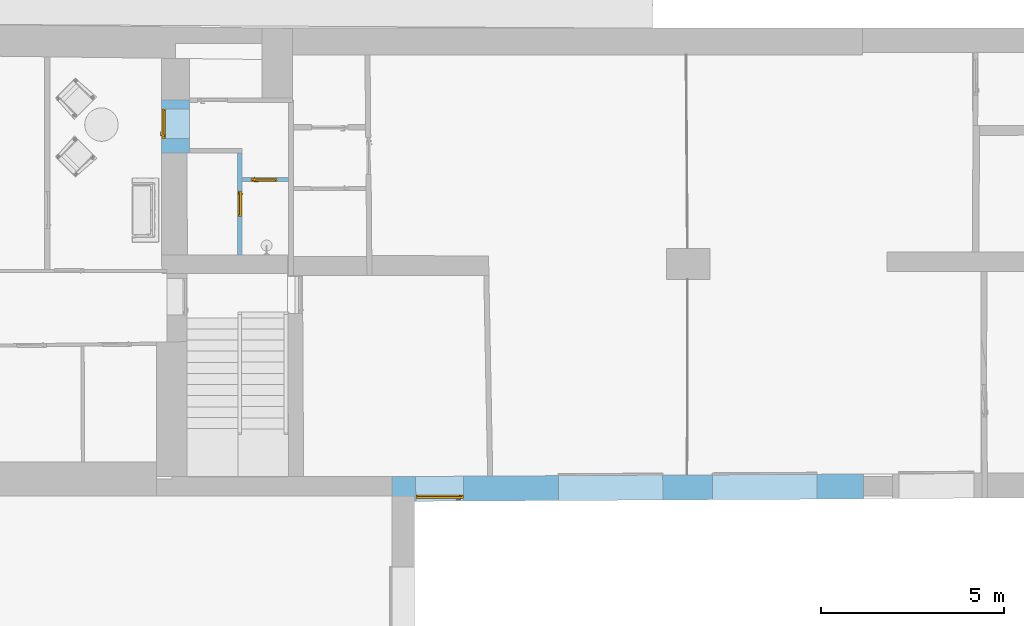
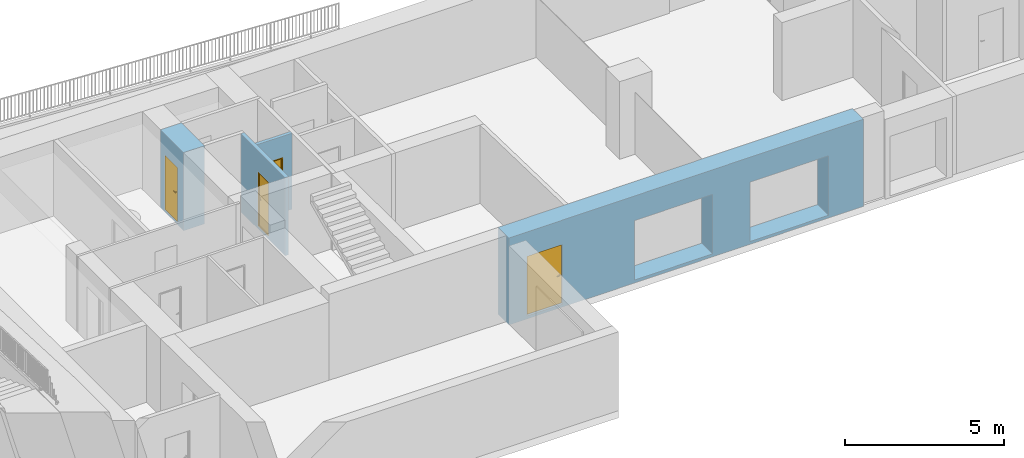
# One storey, part 8 of 17: 4 doors, 7 openings, plus 4 elements that do not belong to this part.
"""IFC2X3 building model written with IfcOpenShell, lengths in millimetres."""

from ifc_helpers import new_model, entity, si_unit, converted_unit, derived_unit, direction, frame, frame_2d, origin, place, context, subcontext, project, spatial, polyline, rectangle, outline, extrude, clip, bounded_halfspace, faceted_brep, source, transform, mapped, material, material_list, layer, layer_set, layer_usage, type_object, type_shapes, element, fill, save


model = new_model("IFC2X3")

# Units and contexts
model_context = context("Model", 3, precision=0.01, world=origin(), true_north=direction((6.12303176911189e-17, 1.0)))
context_of_model = context(None, 3, precision=0.01, world=origin(), true_north=direction((6.12303176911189e-17, 1.0)))
body_context = subcontext(model_context, "Body", "Model", "MODEL_VIEW")
ifc_project = project(units=[si_unit("LENGTHUNIT", "METRE", prefix="MILLI"), si_unit("AREAUNIT", "SQUARE_METRE"), si_unit("VOLUMEUNIT", "CUBIC_METRE"), converted_unit("PLANEANGLEUNIT", "DEGREE", entity("IfcRatioMeasure", 0.0174532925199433), si_unit("PLANEANGLEUNIT", "RADIAN"), dimensions=[0, 0, 0, 0, 0, 0, 0]), si_unit("MASSUNIT", "GRAM", prefix="KILO"), derived_unit("MASSDENSITYUNIT", [(si_unit("MASSUNIT", "GRAM", prefix="KILO"), 1), (si_unit("LENGTHUNIT", "METRE"), -3)]), si_unit("TIMEUNIT", "SECOND"), si_unit("FREQUENCYUNIT", "HERTZ"), si_unit("THERMODYNAMICTEMPERATUREUNIT", "DEGREE_CELSIUS"), derived_unit("THERMALTRANSMITTANCEUNIT", [(si_unit("MASSUNIT", "GRAM", prefix="KILO"), 1), (si_unit("THERMODYNAMICTEMPERATUREUNIT", "KELVIN"), -1), (si_unit("TIMEUNIT", "SECOND"), -3)]), derived_unit("VOLUMETRICFLOWRATEUNIT", [(si_unit("LENGTHUNIT", "METRE"), 3), (si_unit("TIMEUNIT", "SECOND"), -1)]), si_unit("ELECTRICCURRENTUNIT", "AMPERE"), si_unit("ELECTRICVOLTAGEUNIT", "VOLT"), si_unit("POWERUNIT", "WATT"), si_unit("FORCEUNIT", "NEWTON", prefix="KILO"), si_unit("ILLUMINANCEUNIT", "LUX"), si_unit("LUMINOUSFLUXUNIT", "LUMEN"), si_unit("LUMINOUSINTENSITYUNIT", "CANDELA"), derived_unit("USERDEFINED", [(si_unit("MASSUNIT", "GRAM", prefix="KILO"), -1), (si_unit("LENGTHUNIT", "METRE"), -2), (si_unit("TIMEUNIT", "SECOND"), 3), (si_unit("LUMINOUSFLUXUNIT", "LUMEN"), 1)]), derived_unit("LINEARVELOCITYUNIT", [(si_unit("LENGTHUNIT", "METRE"), 1), (si_unit("TIMEUNIT", "SECOND"), -1)]), si_unit("PRESSUREUNIT", "PASCAL"), derived_unit("USERDEFINED", [(si_unit("LENGTHUNIT", "METRE"), -2), (si_unit("MASSUNIT", "GRAM", prefix="KILO"), 1), (si_unit("TIMEUNIT", "SECOND"), -2)])], contexts=[model_context, context_of_model])

# Site, building, storey
site_placement = place(None, frame((121442.264707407, 135347.995453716, -1800.0)))
site = spatial("IfcSite", under=ifc_project, at=site_placement, Name="Surface", CompositionType="ELEMENT")
building_placement = place(site_placement, origin())
building = spatial("IfcBuilding", under=site, at=building_placement, CompositionType="ELEMENT")
storey_placement = place(building_placement, frame((0.0, 0.0, -1490.0)))
storey = spatial("IfcBuildingStorey", under=building, at=storey_placement, Name="Kelder", CompositionType="ELEMENT", Elevation=-1489.99999999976)

# Wall, openings, door
ifc_material_1 = material(Name="__Betoonelement")
ifc_layer_1 = layer(ifc_material_1, 760.0)
ifc_layer_set_1 = layer_set([ifc_layer_1], Name="Basic Wall:76_Betoon 5")
ifc_layer_usage_1 = layer_usage(ifc_layer_set_1, "AXIS2", "POSITIVE", -380.0)
wall_type_1 = type_object("IfcWallType", Name="Basic Wall:76_Betoon 5", PredefinedType="STANDARD", material=ifc_layer_set_1)
wall_1_placement = place(storey_placement, frame((-109616.310640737, -116807.778632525, 0.0), z_axis=(0.0, 0.0, 1.0), x_axis=(0.0, -1.0, 0.0)))
wall_1 = element("IfcWallStandardCase", 1, at=wall_1_placement, inside=storey, type_object=wall_type_1, material=ifc_layer_usage_1, Name="Basic Wall:76_Betoon 5", ObjectType="Basic Wall:76_Betoon 5", context=body_context, shape_type="Clipping", body=[
    clip(extrude(rectangle(XDim=1443.98374067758, YDim=760.0, at=frame_2d((721.99187033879, 0.0), x_axis=(-1.0, 0.0))), origin(), (0.0, 0.0, 1.0), 2997.0), bounded_halfspace(frame((60.0, -380.0, 2997.0), z_axis=(0.0, 0.0, -1.0), x_axis=(1.0, 0.0, 0.0)), True, frame((60.0, -380.0, 2997.0)), polyline([(0.0, 0.0), (1383.98374067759, 0.0), (1383.98374067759, 760.0), (1253.98374067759, 760.0), (0.0, 760.0), (0.0, 0.0)]))),
])
opening_1_placement = place(wall_1_placement, origin())
element("IfcOpeningElement", 2, at=opening_1_placement, cuts=wall_1, Name="Basic Wall:76_Betoon 5", ObjectType="Opening", context=body_context, shape_type="SweptSolid", body=[
    extrude(rectangle(XDim=2099.99999999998, YDim=120.000000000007, at=frame_2d((0.0, 0.0), x_axis=(0.0, 1.0))), frame((0.0, 610.0, 1140.0), z_axis=(0.0, 1.0, 0.0), x_axis=(-1.0, 0.0, 0.0)), (0.0, 0.0, 1.0), 810.000000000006),
])
opening_2_placement = place(wall_1_placement, frame((1048.9837406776, 380.0, 90.0)))
opening_2 = element("IfcOpeningElement", 3, at=opening_2_placement, cuts=wall_1, Name="sma_D01:810 x 2110_SU-01 Siseuks:1", ObjectType="Opening", context=body_context, shape_type="SweptSolid", body=[
    extrude(rectangle(XDim=2099.99999999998, YDim=810.0, at=frame_2d((1049.99999999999, 405.0), x_axis=(1.0, 0.0))), frame((0.0, 0.0, 0.0), z_axis=(0.0, -1.0, 0.0), x_axis=(0.0, 0.0, 1.0)), (0.0, 0.0, 1.0), 760.0),
])
ifc_material_2 = material(Name="Metal - Aluminium")
ifc_material_3 = material(Name="Door - Panel_valge")
ifc_material_list_1 = material_list([ifc_material_2, ifc_material_3])
ifc_material_list_2 = material_list([ifc_material_2, ifc_material_3])
door_style_1 = type_object("IfcDoorStyle", Name="810 x 2110_SU-01 Siseuks", ConstructionType="NOTDEFINED", OperationType="SINGLE_SWING_RIGHT", ParameterTakesPrecedence=False, Sizeable=False, material=ifc_material_list_2)
shared_shape_1 = source(origin(), body_context, "Body", "Brep", [
    faceted_brep([(100.0, 650.0, 1112.5), (100.0, 688.0, 1112.5), (75.0, 688.0, 1112.5), (75.0, 645.0, 1112.5), (195.0, 645.0, 1112.5), (195.0, 650.0, 1112.5), (100.0, 650.0, 1087.5), (195.0, 650.0, 1087.5), (195.0, 645.0, 1087.5), (75.0, 645.0, 1087.5), (75.0, 688.0, 1087.5), (100.0, 688.0, 1087.5)], [[[0, 1, 2, 3, 4, 5]], [[6, 7, 8, 9, 10, 11]], [[1, 0, 6, 11]], [[2, 1, 11, 10]], [[3, 2, 10, 9]], [[4, 3, 9, 8]], [[5, 4, 8, 7]], [[0, 5, 7, 6]]]),
    faceted_brep([(112.499999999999, 688.0, 1137.5), (112.499999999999, 690.0, 1137.5), (62.4999999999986, 690.0, 1137.5), (62.4999999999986, 688.0, 1137.5), (112.499999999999, 688.0, 1017.5), (62.4999999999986, 688.0, 1017.5), (62.4999999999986, 690.0, 1017.5), (112.499999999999, 690.0, 1017.5)], [[[0, 1, 2, 3]], [[4, 5, 6, 7]], [[1, 0, 4, 7]], [[2, 1, 7, 6]], [[3, 2, 6, 5]], [[0, 3, 5, 4]]]),
    faceted_brep([(100.0, 780.0, 1112.5), (195.0, 780.0, 1112.5), (195.0, 785.0, 1112.5), (75.0, 785.0, 1112.5), (75.0, 742.0, 1112.5), (100.0, 742.0, 1112.5), (100.0, 780.0, 1087.5), (100.0, 742.0, 1087.5), (75.0, 742.0, 1087.5), (75.0, 785.0, 1087.5), (195.0, 785.0, 1087.5), (195.0, 780.0, 1087.5)], [[[0, 1, 2, 3, 4, 5]], [[6, 7, 8, 9, 10, 11]], [[5, 7, 6, 0]], [[4, 8, 7, 5]], [[3, 9, 8, 4]], [[2, 10, 9, 3]], [[1, 11, 10, 2]], [[0, 6, 11, 1]]]),
    faceted_brep([(112.499999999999, 742.0, 1137.5), (62.4999999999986, 742.0, 1137.5), (62.4999999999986, 740.0, 1137.5), (112.499999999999, 740.0, 1137.5), (112.499999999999, 742.0, 1017.5), (112.499999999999, 740.0, 1017.5), (62.4999999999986, 740.0, 1017.5), (62.4999999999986, 742.0, 1017.5)], [[[0, 1, 2, 3]], [[4, 5, 6, 7]], [[3, 5, 4, 0]], [[2, 6, 5, 3]], [[1, 7, 6, 2]], [[0, 4, 7, 1]]]),
    faceted_brep([(810.0, 650.0, 0.0), (770.0, 650.0, 0.0), (770.0, 690.0, 0.0), (785.0, 690.0, 0.0), (785.0, 740.0, 0.0), (810.0, 740.0, 0.0), (810.0, 650.0, 2100.0), (0.0, 650.0, 2100.0), (0.0, 650.0, 0.0), (40.0, 650.0, 0.0), (40.0, 650.0, 2060.0), (770.0, 650.0, 2060.0), (770.0, 690.0, 2060.0), (40.0, 690.0, 2060.0), (40.0, 690.0, 0.0), (25.0, 690.0, 0.0), (25.0, 690.0, 2075.0), (785.0, 690.0, 2075.0), (785.0, 740.0, 2075.0), (25.0, 740.0, 2075.0), (25.0, 740.0, 0.0), (0.0, 740.0, 0.0), (0.0, 740.0, 2100.0), (810.0, 740.0, 2100.0)], [[[0, 1, 2, 3, 4, 5]], [[1, 0, 6, 7, 8, 9, 10, 11]], [[2, 1, 11, 12]], [[3, 2, 12, 13, 14, 15, 16, 17]], [[4, 3, 17, 18]], [[5, 4, 18, 19, 20, 21, 22, 23]], [[0, 5, 23, 6]], [[7, 22, 21, 8]], [[8, 21, 20, 15, 14, 9]], [[13, 10, 9, 14]], [[19, 16, 15, 20]], [[12, 11, 10, 13]], [[18, 17, 16, 19]], [[6, 23, 22, 7]]]),
    faceted_brep([(25.0, 690.0, 2075.0), (25.0, 690.0, 20.0), (785.0, 690.0, 20.0), (785.0, 690.0, 2075.0), (25.0, 740.0, 2075.0), (785.0, 740.0, 2075.0), (785.0, 740.0, 20.0), (25.0, 740.0, 20.0)], [[[0, 1, 2, 3]], [[4, 5, 6, 7]], [[1, 0, 4, 7]], [[2, 1, 7, 6]], [[3, 2, 6, 5]], [[0, 3, 5, 4]]]),
    faceted_brep([(770.0, 650.0, 30.0), (770.0, 650.0, 0.0), (770.0, 690.0, 0.0), (770.0, 690.0, 20.0), (770.0, 690.0, 30.0), (40.0, 650.0, 30.0), (40.0, 690.0, 30.0), (40.0, 690.0, 20.0), (40.0, 690.0, 0.0), (40.0, 650.0, 0.0), (25.0, 690.0, 0.0), (25.0, 740.0, 0.0), (785.0, 740.0, 0.0), (785.0, 690.0, 0.0), (785.0, 740.0, 20.0), (785.0, 690.0, 20.0), (25.0, 740.0, 20.0), (25.0, 690.0, 20.0)], [[[0, 1, 2, 3, 4]], [[5, 6, 7, 8, 9]], [[1, 0, 5, 9]], [[2, 1, 9, 8, 10, 11, 12, 13]], [[6, 4, 3, 7]], [[0, 4, 6, 5]], [[14, 15, 13, 12]], [[16, 11, 10, 17]], [[15, 14, 16, 17, 7, 3]], [[13, 15, 3, 2]], [[14, 12, 11, 16]], [[17, 10, 8, 7]]]),
])
type_shapes(door_style_1, [shared_shape_1])
door_1_placement = place(opening_2_placement, frame((0.0, 0.0, 0.0), z_axis=(0.0, 0.0, 1.0), x_axis=(-1.0, 0.0, 0.0)))
door_1 = element("IfcDoor", 4, at=door_1_placement, inside=storey, type_object=door_style_1, material=ifc_material_list_1, Name="sma_D01:810 x 2110_SU-01 Siseuks", ObjectType="810 x 2110_SU-01 Siseuks", OverallHeight=2099.99999999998, OverallWidth=810.000000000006, context=body_context, shape_type="MappedRepresentation", body=[
    mapped(shared_shape_1, transform((0.0, 0.0, 0.0), scale=1.0)),
])
fill(opening_2, door_1)

# Wall, opening, door
ifc_layer_2 = layer(ifc_material_1, 110.0)
ifc_layer_set_2 = layer_set([ifc_layer_2], Name="Basic Wall:11_Betoon 2")
ifc_layer_usage_2 = layer_usage(ifc_layer_set_2, "AXIS2", "NEGATIVE", 55.0)
wall_type_2 = type_object("IfcWallType", Name="Basic Wall:11_Betoon 2", PredefinedType="STANDARD", material=ifc_layer_set_2)
wall_2_placement = place(storey_placement, frame((-106526.566491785, -118978.210874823, 87.0), z_axis=(0.0, 0.0, 1.0), x_axis=(-1.0, 0.0, 0.0)))
wall_2 = element("IfcWallStandardCase", 5, at=wall_2_placement, inside=storey, type_object=wall_type_2, material=ifc_layer_usage_2, Name="Basic Wall:11_Betoon 2", ObjectType="Basic Wall:11_Betoon 2", context=body_context, shape_type="Clipping", body=[
    clip(extrude(rectangle(XDim=1265.96896872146, YDim=110.00000000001, at=frame_2d((632.984484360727, 0.0), x_axis=(-1.0, 0.0))), origin(), (0.0, 0.0, 1.0), 2910.0), bounded_halfspace(frame((0.0, -55.0, 2910.0), z_axis=(0.0, 0.0, -1.0), x_axis=(0.0, 1.0, 0.0)), True, frame((0.0, -55.0, 2910.0)), polyline([(0.0, 0.0), (1265.96896872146, 0.0), (1265.96896872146, 110.0), (0.0, 110.0), (0.0, 0.0)]))),
])
opening_3_placement = place(wall_2_placement, frame((1019.0478312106, 55.0, 3.0)))
opening_3 = element("IfcOpeningElement", 6, at=opening_3_placement, cuts=wall_2, Name="sma_D01:700 x 2100mm PVC siseuks:1", ObjectType="Opening", context=body_context, shape_type="SweptSolid", body=[
    extrude(rectangle(XDim=2099.99999999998, YDim=700.0, at=frame_2d((1049.99999999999, 350.0), x_axis=(1.0, 0.0))), frame((0.0, 0.0, 0.0), z_axis=(0.0, -1.0, 0.0), x_axis=(0.0, 0.0, 1.0)), (0.0, 0.0, 1.0), 110.0),
])
ifc_material_4 = material(Name="PVC")
ifc_material_list_3 = material_list([ifc_material_2, ifc_material_4])
ifc_material_list_4 = material_list([ifc_material_2, ifc_material_4])
door_style_2 = type_object("IfcDoorStyle", Name="700 x 2100mm PVC siseuks", ConstructionType="USERDEFINED", OperationType="SINGLE_SWING_RIGHT", ParameterTakesPrecedence=False, Sizeable=False, material=ifc_material_list_4)
shared_shape_2 = source(origin(), body_context, "Body", "Brep", [
    faceted_brep([(100.0, 0.0, 1112.5), (100.0, 38.0, 1112.5), (75.0, 38.0, 1112.5), (75.0, -5.0, 1112.5), (195.0, -5.0, 1112.5), (195.0, 0.0, 1112.5), (100.0, 0.0, 1087.5), (195.0, 0.0, 1087.5), (195.0, -5.0, 1087.5), (75.0, -5.0, 1087.5), (75.0, 38.0, 1087.5), (100.0, 38.0, 1087.5)], [[[0, 1, 2, 3, 4, 5]], [[6, 7, 8, 9, 10, 11]], [[1, 0, 6, 11]], [[2, 1, 11, 10]], [[3, 2, 10, 9]], [[4, 3, 9, 8]], [[5, 4, 8, 7]], [[0, 5, 7, 6]]]),
    faceted_brep([(112.5, 38.0, 1137.5), (112.5, 40.0, 1137.5), (62.4999999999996, 40.0, 1137.5), (62.4999999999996, 38.0, 1137.5), (112.5, 38.0, 1017.5), (62.4999999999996, 38.0, 1017.5), (62.4999999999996, 40.0, 1017.5), (112.5, 40.0, 1017.5)], [[[0, 1, 2, 3]], [[4, 5, 6, 7]], [[1, 0, 4, 7]], [[2, 1, 7, 6]], [[3, 2, 6, 5]], [[0, 3, 5, 4]]]),
    faceted_brep([(100.0, 130.0, 1112.5), (195.0, 130.0, 1112.5), (195.0, 135.0, 1112.5), (75.0, 135.0, 1112.5), (75.0, 92.0, 1112.5), (100.0, 92.0, 1112.5), (100.0, 130.0, 1087.5), (100.0, 92.0, 1087.5), (75.0, 92.0, 1087.5), (75.0, 135.0, 1087.5), (195.0, 135.0, 1087.5), (195.0, 130.0, 1087.5)], [[[0, 1, 2, 3, 4, 5]], [[6, 7, 8, 9, 10, 11]], [[5, 7, 6, 0]], [[4, 8, 7, 5]], [[3, 9, 8, 4]], [[2, 10, 9, 3]], [[1, 11, 10, 2]], [[0, 6, 11, 1]]]),
    faceted_brep([(112.5, 92.0, 1137.5), (62.4999999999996, 92.0, 1137.5), (62.4999999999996, 90.0, 1137.5), (112.5, 90.0, 1137.5), (112.5, 92.0, 1017.5), (112.5, 90.0, 1017.5), (62.4999999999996, 90.0, 1017.5), (62.4999999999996, 92.0, 1017.5)], [[[0, 1, 2, 3]], [[4, 5, 6, 7]], [[3, 5, 4, 0]], [[2, 6, 5, 3]], [[1, 7, 6, 2]], [[0, 4, 7, 1]]]),
    faceted_brep([(700.0, 0.0, 0.0), (660.0, 0.0, 0.0), (660.0, 40.0, 0.0), (675.0, 40.0, 0.0), (675.0, 90.0, 0.0), (700.0, 90.0, 0.0), (700.0, 0.0, 2100.0), (0.0, 0.0, 2100.0), (0.0, 0.0, 0.0), (40.0, 0.0, 0.0), (40.0, 0.0, 2060.0), (660.0, 0.0, 2060.0), (660.0, 40.0, 2060.0), (40.0, 40.0, 2060.0), (40.0, 40.0, 0.0), (25.0, 40.0, 0.0), (25.0, 40.0, 2075.0), (675.0, 40.0, 2075.0), (675.0, 90.0, 2075.0), (25.0, 90.0, 2075.0), (25.0, 90.0, 0.0), (0.0, 90.0, 0.0), (0.0, 90.0, 2100.0), (700.0, 90.0, 2100.0)], [[[0, 1, 2, 3, 4, 5]], [[1, 0, 6, 7, 8, 9, 10, 11]], [[2, 1, 11, 12]], [[3, 2, 12, 13, 14, 15, 16, 17]], [[4, 3, 17, 18]], [[5, 4, 18, 19, 20, 21, 22, 23]], [[0, 5, 23, 6]], [[7, 22, 21, 8]], [[8, 21, 20, 15, 14, 9]], [[13, 10, 9, 14]], [[19, 16, 15, 20]], [[12, 11, 10, 13]], [[18, 17, 16, 19]], [[6, 23, 22, 7]]]),
    faceted_brep([(25.0, 40.0, 2075.0), (25.0, 40.0, 20.0), (675.0, 40.0, 20.0), (675.0, 40.0, 2075.0), (25.0, 90.0, 2075.0), (675.0, 90.0, 2075.0), (675.0, 90.0, 20.0), (25.0, 90.0, 20.0)], [[[0, 1, 2, 3]], [[4, 5, 6, 7]], [[1, 0, 4, 7]], [[2, 1, 7, 6]], [[3, 2, 6, 5]], [[0, 3, 5, 4]]]),
    faceted_brep([(660.0, 0.0, 30.0), (660.0, 0.0, 0.0), (660.0, 40.0, 0.0), (660.0, 40.0, 20.0), (660.0, 40.0, 30.0), (40.0, 0.0, 30.0), (40.0, 40.0, 30.0), (40.0, 40.0, 20.0), (40.0, 40.0, 0.0), (40.0, 0.0, 0.0), (25.0, 40.0, 0.0), (25.0, 90.0, 0.0), (675.0, 90.0, 0.0), (675.0, 40.0, 0.0), (675.0, 90.0, 20.0), (675.0, 40.0, 20.0), (25.0, 90.0, 20.0), (25.0, 40.0, 20.0)], [[[0, 1, 2, 3, 4]], [[5, 6, 7, 8, 9]], [[1, 0, 5, 9]], [[2, 1, 9, 8, 10, 11, 12, 13]], [[6, 4, 3, 7]], [[0, 4, 6, 5]], [[14, 15, 13, 12]], [[16, 11, 10, 17]], [[15, 14, 16, 17, 7, 3]], [[13, 15, 3, 2]], [[14, 12, 11, 16]], [[17, 10, 8, 7]]]),
])
type_shapes(door_style_2, [shared_shape_2])
door_2_placement = place(opening_3_placement, frame((0.0, 0.0, 0.0), z_axis=(0.0, 0.0, 1.0), x_axis=(-1.0, 0.0, 0.0)))
door_2 = element("IfcDoor", 7, at=door_2_placement, inside=storey, type_object=door_style_2, material=ifc_material_list_3, Name="sma_D01:700 x 2100mm PVC siseuks", ObjectType="700 x 2100mm PVC siseuks", OverallHeight=2099.99999999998, OverallWidth=699.999999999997, context=body_context, shape_type="MappedRepresentation", body=[
    mapped(shared_shape_2, transform((0.0, 0.0, 0.0), scale=1.0)),
])
fill(opening_3, door_2)

ifc_layer_3 = layer(ifc_material_1, 130.0)
ifc_layer_set_3 = layer_set([ifc_layer_3], Name="Basic Wall:13_Betoon 2")
ifc_layer_usage_3 = layer_usage(ifc_layer_set_3, "AXIS2", "POSITIVE", -65.0)
wall_type_3 = type_object("IfcWallType", Name="Basic Wall:13_Betoon 2", PredefinedType="STANDARD", material=ifc_layer_set_3)
wall_3_placement = place(storey_placement, frame((-107857.535460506, -118251.762373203, 0.0), z_axis=(0.0, 0.0, 1.0), x_axis=(0.0, -1.0, 0.0)))
wall_3 = element("IfcWallStandardCase", 8, at=wall_3_placement, inside=storey, type_object=wall_type_3, material=ifc_layer_usage_3, Name="Basic Wall:13_Betoon 2", ObjectType="Basic Wall:13_Betoon 2", context=body_context, shape_type="Clipping", body=[
    clip(extrude(rectangle(XDim=2778.98607914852, YDim=130.000000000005, at=frame_2d((1389.49303957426, 0.0), x_axis=(-1.0, 0.0))), origin(), (0.0, 0.0, 1.0), 2997.0), bounded_halfspace(frame((0.0, -65.0, 2997.0), z_axis=(0.0, 0.0, -1.0), x_axis=(1.0, 0.0, 0.0)), True, frame((0.0, -65.0, 2997.0)), polyline([(0.0, 0.0), (2778.98607914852, 0.0), (2778.98607914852, 130.0), (781.448501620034, 130.0), (671.448501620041, 130.0), (0.0, 130.0), (0.0, 0.0)]))),
])
opening_4_placement = place(wall_3_placement, frame((1034.49303957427, -65.0, 90.0)))
opening_4 = element("IfcOpeningElement", 9, at=opening_4_placement, cuts=wall_3, Name="sma_D01:700 x 2100mm PVC siseuks:1", ObjectType="Opening", context=body_context, shape_type="SweptSolid", body=[
    extrude(rectangle(XDim=2099.99999999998, YDim=700.0, at=frame_2d((1049.99999999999, 350.0), x_axis=(1.0, 0.0))), frame((0.0, 0.0, 0.0), z_axis=(0.0, 1.0, 0.0), x_axis=(0.0, 0.0, 1.0)), (0.0, 0.0, 1.0), 130.0),
])
ifc_material_list_5 = material_list([ifc_material_2, ifc_material_4])
ifc_material_list_6 = material_list([ifc_material_2, ifc_material_4])
door_style_3 = type_object("IfcDoorStyle", Name="700 x 2100mm PVC siseuks", ConstructionType="USERDEFINED", OperationType="SINGLE_SWING_RIGHT", ParameterTakesPrecedence=False, Sizeable=False, material=ifc_material_list_6)
shared_shape_3 = source(origin(), body_context, "Body", "Brep", [
    faceted_brep([(100.0, 20.0, 1112.5), (100.0, 58.0, 1112.5), (75.0, 58.0, 1112.5), (75.0, 15.0, 1112.5), (195.0, 15.0, 1112.5), (195.0, 20.0, 1112.5), (100.0, 20.0, 1087.5), (195.0, 20.0, 1087.5), (195.0, 15.0, 1087.5), (75.0, 15.0, 1087.5), (75.0, 58.0, 1087.5), (100.0, 58.0, 1087.5)], [[[0, 1, 2, 3, 4, 5]], [[6, 7, 8, 9, 10, 11]], [[1, 0, 6, 11]], [[2, 1, 11, 10]], [[3, 2, 10, 9]], [[4, 3, 9, 8]], [[5, 4, 8, 7]], [[0, 5, 7, 6]]]),
    faceted_brep([(112.5, 58.0, 1137.5), (112.5, 60.0, 1137.5), (62.4999999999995, 60.0, 1137.5), (62.4999999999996, 58.0, 1137.5), (112.5, 58.0, 1017.5), (62.4999999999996, 58.0, 1017.5), (62.4999999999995, 60.0, 1017.5), (112.5, 60.0, 1017.5)], [[[0, 1, 2, 3]], [[4, 5, 6, 7]], [[1, 0, 4, 7]], [[2, 1, 7, 6]], [[3, 2, 6, 5]], [[0, 3, 5, 4]]]),
    faceted_brep([(100.0, 150.0, 1112.5), (195.0, 150.0, 1112.5), (195.0, 155.0, 1112.5), (75.0, 155.0, 1112.5), (75.0, 112.0, 1112.5), (100.0, 112.0, 1112.5), (100.0, 150.0, 1087.5), (100.0, 112.0, 1087.5), (75.0, 112.0, 1087.5), (75.0, 155.0, 1087.5), (195.0, 155.0, 1087.5), (195.0, 150.0, 1087.5)], [[[0, 1, 2, 3, 4, 5]], [[6, 7, 8, 9, 10, 11]], [[5, 7, 6, 0]], [[4, 8, 7, 5]], [[3, 9, 8, 4]], [[2, 10, 9, 3]], [[1, 11, 10, 2]], [[0, 6, 11, 1]]]),
    faceted_brep([(112.5, 112.0, 1137.5), (62.4999999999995, 112.0, 1137.5), (62.4999999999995, 110.0, 1137.5), (112.5, 110.0, 1137.5), (112.5, 112.0, 1017.5), (112.5, 110.0, 1017.5), (62.4999999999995, 110.0, 1017.5), (62.4999999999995, 112.0, 1017.5)], [[[0, 1, 2, 3]], [[4, 5, 6, 7]], [[3, 5, 4, 0]], [[2, 6, 5, 3]], [[1, 7, 6, 2]], [[0, 4, 7, 1]]]),
    faceted_brep([(700.0, 20.0, 0.0), (660.0, 20.0, 0.0), (660.0, 60.0, 0.0), (675.0, 60.0, 0.0), (675.0, 110.0, 0.0), (700.0, 110.0, 0.0), (700.0, 20.0, 2100.0), (0.0, 20.0, 2100.0), (0.0, 20.0, 0.0), (40.0, 20.0, 0.0), (40.0, 20.0, 2060.0), (660.0, 20.0, 2060.0), (660.0, 60.0, 2060.0), (40.0, 60.0, 2060.0), (40.0, 60.0, 0.0), (25.0, 60.0, 0.0), (25.0, 60.0, 2075.0), (675.0, 60.0, 2075.0), (675.0, 110.0, 2075.0), (25.0, 110.0, 2075.0), (25.0, 110.0, 0.0), (0.0, 110.0, 0.0), (0.0, 110.0, 2100.0), (700.0, 110.0, 2100.0)], [[[0, 1, 2, 3, 4, 5]], [[1, 0, 6, 7, 8, 9, 10, 11]], [[2, 1, 11, 12]], [[3, 2, 12, 13, 14, 15, 16, 17]], [[4, 3, 17, 18]], [[5, 4, 18, 19, 20, 21, 22, 23]], [[0, 5, 23, 6]], [[7, 22, 21, 8]], [[8, 21, 20, 15, 14, 9]], [[13, 10, 9, 14]], [[19, 16, 15, 20]], [[12, 11, 10, 13]], [[18, 17, 16, 19]], [[6, 23, 22, 7]]]),
    faceted_brep([(25.0, 60.0, 2075.0), (25.0, 60.0, 20.0), (675.0, 60.0, 20.0), (675.0, 60.0, 2075.0), (25.0, 110.0, 2075.0), (675.0, 110.0, 2075.0), (675.0, 110.0, 20.0), (25.0, 110.0, 20.0)], [[[0, 1, 2, 3]], [[4, 5, 6, 7]], [[1, 0, 4, 7]], [[2, 1, 7, 6]], [[3, 2, 6, 5]], [[0, 3, 5, 4]]]),
    faceted_brep([(660.0, 20.0, 30.0), (660.0, 20.0, 0.0), (660.0, 60.0, 0.0), (660.0, 60.0, 20.0), (660.0, 60.0, 30.0), (40.0, 20.0, 30.0), (40.0, 60.0, 30.0), (40.0, 60.0, 20.0), (40.0, 60.0, 0.0), (40.0, 20.0, 0.0), (25.0, 60.0, 0.0), (25.0, 110.0, 0.0), (675.0, 110.0, 0.0), (675.0, 60.0, 0.0), (675.0, 110.0, 20.0), (675.0, 60.0, 20.0), (25.0, 110.0, 20.0), (25.0, 60.0, 20.0)], [[[0, 1, 2, 3, 4]], [[5, 6, 7, 8, 9]], [[1, 0, 5, 9]], [[2, 1, 9, 8, 10, 11, 12, 13]], [[6, 4, 3, 7]], [[0, 4, 6, 5]], [[14, 15, 13, 12]], [[16, 11, 10, 17]], [[15, 14, 16, 17, 7, 3]], [[13, 15, 3, 2]], [[14, 12, 11, 16]], [[17, 10, 8, 7]]]),
])
type_shapes(door_style_3, [shared_shape_3])
door_3_placement = place(opening_4_placement, origin())
door_3 = element("IfcDoor", 10, at=door_3_placement, inside=storey, type_object=door_style_3, material=ifc_material_list_5, Name="sma_D01:700 x 2100mm PVC siseuks", ObjectType="700 x 2100mm PVC siseuks", OverallHeight=2099.99999999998, OverallWidth=699.999999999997, context=body_context, shape_type="MappedRepresentation", body=[
    mapped(shared_shape_3, transform((0.0, 0.0, 0.0), scale=1.0)),
])
fill(opening_4, door_3)

# Wall, openings, door
ifc_layer_4 = layer(ifc_material_1, 680.0)
ifc_layer_set_4 = layer_set([ifc_layer_4], Name="Basic Wall:68_Betoon")
ifc_layer_usage_4 = layer_usage(ifc_layer_set_4, "AXIS2", "NEGATIVE", 340.0)
wall_type_4 = type_object("IfcWallType", Name="Basic Wall:68_Betoon", PredefinedType="NOTDEFINED")
wall_4_placement = place(storey_placement, frame((-90820.133063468, -127359.773143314, -40.5478570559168), z_axis=(0.0, 0.0, 1.0), x_axis=(-0.999985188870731, -0.00544261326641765, 0.0)))
wall_4 = element("IfcWallStandardCase", 11, at=wall_4_placement, inside=storey, type_object=wall_type_4, material=ifc_layer_usage_4, Name="Basic Wall:68_Betoon", ObjectType="Basic Wall:68_Betoon", context=body_context, shape_type="SweptSolid", body=[
    extrude(outline(polyline([(12881.2846414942, -340.0), (12884.9856733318, 340.0), (0.0, 340.0), (0.632101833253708, -340.0), (12881.2846414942, -340.0)])), origin(), (0.0, 0.0, 1.0), 3330.54785705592),
])
opening_5_placement = place(wall_4_placement, frame((10929.945706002, -340.0, 110.54785705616)))
opening_5 = element("IfcOpeningElement", 12, at=opening_5_placement, cuts=wall_4, Name="sma_D01:1300 x 2290mm 3:1", ObjectType="Opening", context=body_context, shape_type="SweptSolid", body=[
    extrude(rectangle(XDim=2289.99999999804, YDim=1300.0, at=frame_2d((1144.99999999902, 650.0), x_axis=(1.0, 0.0))), frame((0.0, 0.0, 0.0), z_axis=(0.0, 1.0, 0.0), x_axis=(0.0, 0.0, 1.0)), (0.0, 0.0, 1.0), 680.0),
])
opening_6_placement = place(wall_4_placement, frame((8329.94570600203, 340.0, 110.54785705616)))
element("IfcOpeningElement", 13, at=opening_6_placement, cuts=wall_4, Name="SMA_Overhead-Sectional_3000mm +käiguuks 1000.0002:285 x 228mm:1", ObjectType="Opening", context=body_context, shape_type="SweptSolid", body=[
    extrude(rectangle(XDim=2280.0, YDim=2850.0, at=frame_2d((1140.0, 1425.0), x_axis=(1.0, 0.0))), frame((0.0, 0.0, 0.0), z_axis=(0.0, -1.0, 0.0), x_axis=(0.0, 0.0, 1.0)), (0.0, 0.0, 1.0), 680.0),
])
opening_7_placement = place(wall_4_placement, frame((4119.94570600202, 340.0, 100.54785705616)))
element("IfcOpeningElement", 14, at=opening_7_placement, cuts=wall_4, Name="SMA_Overhead-Sectional_3000mm +käiguuks 1000.0002:285 x 228mm:1", ObjectType="Opening", context=body_context, shape_type="SweptSolid", body=[
    extrude(rectangle(XDim=2280.0, YDim=2850.0, at=frame_2d((1140.0, 1425.0), x_axis=(1.0, 0.0))), frame((0.0, 0.0, 0.0), z_axis=(0.0, -1.0, 0.0), x_axis=(0.0, 0.0, 1.0)), (0.0, 0.0, 1.0), 680.0),
])
door_style_4 = type_object("IfcDoorStyle", Name="1300 x 2290mm 3", ConstructionType="NOTDEFINED", OperationType="SINGLE_SWING_RIGHT", ParameterTakesPrecedence=False, Sizeable=False, material=ifc_material_2)
shared_shape_4 = source(origin(), body_context, "Body", "Brep", [
    faceted_brep([(100.0, 512.465234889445, 1112.5), (100.0, 550.465234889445, 1112.5), (75.0, 550.465234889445, 1112.5), (75.0, 507.465234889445, 1112.5), (195.0, 507.465234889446, 1112.5), (195.0, 512.465234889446, 1112.5), (100.0, 512.465234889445, 1087.5), (195.0, 512.465234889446, 1087.5), (195.0, 507.465234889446, 1087.5), (75.0, 507.465234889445, 1087.5), (75.0, 550.465234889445, 1087.5), (100.0, 550.465234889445, 1087.5)], [[[0, 1, 2, 3, 4, 5]], [[6, 7, 8, 9, 10, 11]], [[1, 0, 6, 11]], [[2, 1, 11, 10]], [[3, 2, 10, 9]], [[4, 3, 9, 8]], [[5, 4, 8, 7]], [[0, 5, 7, 6]]]),
    faceted_brep([(112.499999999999, 550.465234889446, 1137.5), (112.499999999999, 552.465234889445, 1137.5), (62.4999999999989, 552.465234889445, 1137.5), (62.4999999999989, 550.465234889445, 1137.5), (112.499999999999, 550.465234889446, 1017.5), (62.4999999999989, 550.465234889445, 1017.5), (62.4999999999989, 552.465234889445, 1017.5), (112.499999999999, 552.465234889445, 1017.5)], [[[0, 1, 2, 3]], [[4, 5, 6, 7]], [[1, 0, 4, 7]], [[2, 1, 7, 6]], [[3, 2, 6, 5]], [[0, 3, 5, 4]]]),
    faceted_brep([(100.0, 642.465234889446, 1112.5), (195.0, 642.465234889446, 1112.5), (195.0, 647.465234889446, 1112.5), (75.0, 647.465234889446, 1112.5), (75.0, 604.465234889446, 1112.5), (100.0, 604.465234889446, 1112.5), (100.0, 642.465234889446, 1087.5), (100.0, 604.465234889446, 1087.5), (75.0, 604.465234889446, 1087.5), (75.0, 647.465234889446, 1087.5), (195.0, 647.465234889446, 1087.5), (195.0, 642.465234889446, 1087.5)], [[[0, 1, 2, 3, 4, 5]], [[6, 7, 8, 9, 10, 11]], [[5, 7, 6, 0]], [[4, 8, 7, 5]], [[3, 9, 8, 4]], [[2, 10, 9, 3]], [[1, 11, 10, 2]], [[0, 6, 11, 1]]]),
    faceted_brep([(112.499999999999, 604.465234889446, 1137.5), (62.4999999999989, 604.465234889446, 1137.5), (62.4999999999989, 602.465234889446, 1137.5), (112.499999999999, 602.465234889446, 1137.5), (112.499999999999, 604.465234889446, 1017.5), (112.499999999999, 602.465234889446, 1017.5), (62.4999999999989, 602.465234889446, 1017.5), (62.4999999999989, 604.465234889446, 1017.5)], [[[0, 1, 2, 3]], [[4, 5, 6, 7]], [[3, 5, 4, 0]], [[2, 6, 5, 3]], [[1, 7, 6, 2]], [[0, 4, 7, 1]]]),
    faceted_brep([(1300.0, 512.465234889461, 0.0), (1260.0, 512.465234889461, 0.0), (1260.0, 552.465234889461, 0.0), (1275.0, 552.465234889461, 0.0), (1275.0, 602.465234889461, 0.0), (1300.0, 602.465234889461, 0.0), (1300.0, 512.465234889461, 2290.0), (0.0, 512.465234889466, 2290.0), (0.0, 512.465234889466, 0.0), (40.0, 512.465234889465, 0.0), (40.0, 512.465234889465, 2250.0), (1260.0, 512.465234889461, 2250.0), (1260.0, 552.465234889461, 2250.0), (40.0, 552.465234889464, 2250.0), (40.0, 552.465234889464, 0.0), (25.0, 552.465234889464, 0.0), (25.0, 552.465234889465, 2265.0), (1275.0, 552.465234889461, 2265.0), (1275.0, 602.465234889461, 2265.0), (25.0, 602.465234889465, 2265.0), (25.0, 602.465234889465, 0.0), (0.0, 602.465234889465, 0.0), (0.0, 602.465234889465, 2290.0), (1300.0, 602.465234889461, 2290.0)], [[[0, 1, 2, 3, 4, 5]], [[1, 0, 6, 7, 8, 9, 10, 11]], [[2, 1, 11, 12]], [[3, 2, 12, 13, 14, 15, 16, 17]], [[4, 3, 17, 18]], [[5, 4, 18, 19, 20, 21, 22, 23]], [[0, 5, 23, 6]], [[7, 22, 21, 8]], [[8, 21, 20, 15, 14, 9]], [[13, 10, 9, 14]], [[19, 16, 15, 20]], [[12, 11, 10, 13]], [[18, 17, 16, 19]], [[6, 23, 22, 7]]]),
    faceted_brep([(25.0, 552.465234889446, 2265.0), (25.0, 552.465234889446, 20.0), (1275.0, 552.46523488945, 20.0), (1275.0, 552.46523488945, 2265.0), (25.0, 602.465234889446, 2265.0), (1275.0, 602.46523488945, 2265.0), (1275.0, 602.46523488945, 20.0), (25.0, 602.465234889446, 20.0)], [[[0, 1, 2, 3]], [[4, 5, 6, 7]], [[1, 0, 4, 7]], [[2, 1, 7, 6]], [[3, 2, 6, 5]], [[0, 3, 5, 4]]]),
    faceted_brep([(1260.0, 512.465234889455, 30.0), (1260.0, 512.465234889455, 0.0), (1260.0, 552.465234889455, 0.0), (1260.0, 552.465234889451, 20.0), (1260.0, 552.465234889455, 30.0), (40.0, 512.465234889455, 30.0), (40.0, 552.465234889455, 30.0), (40.0, 552.465234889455, 20.0), (40.0, 552.465234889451, 0.0), (40.0, 512.465234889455, 0.0), (25.0, 552.465234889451, 0.0), (25.0, 602.465234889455, 0.0), (1275.0, 602.465234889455, 0.0), (1275.0, 552.465234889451, 0.0), (1275.0, 602.465234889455, 20.0), (1275.0, 552.465234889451, 20.0), (25.0, 602.465234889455, 20.0), (25.0, 552.465234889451, 20.0)], [[[0, 1, 2, 3, 4]], [[5, 6, 7, 8, 9]], [[1, 0, 5, 9]], [[2, 1, 9, 8, 10, 11, 12, 13]], [[6, 4, 3, 7]], [[0, 4, 6, 5]], [[14, 15, 13, 12]], [[16, 11, 10, 17]], [[15, 14, 16, 17, 7, 3]], [[13, 15, 3, 2]], [[14, 12, 11, 16]], [[17, 10, 8, 7]]]),
])
type_shapes(door_style_4, [shared_shape_4])
door_4_placement = place(opening_5_placement, origin())
door_4 = element("IfcDoor", 15, at=door_4_placement, inside=storey, type_object=door_style_4, material=ifc_material_2, Name="sma_D01:1300 x 2290mm 3", ObjectType="1300 x 2290mm 3", OverallHeight=2289.99999999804, OverallWidth=1300.0, context=body_context, shape_type="MappedRepresentation", body=[
    mapped(shared_shape_4, transform((0.0, 0.0, 0.0), scale=1.0)),
])
fill(opening_5, door_4)

save(model, "model.ifc")
